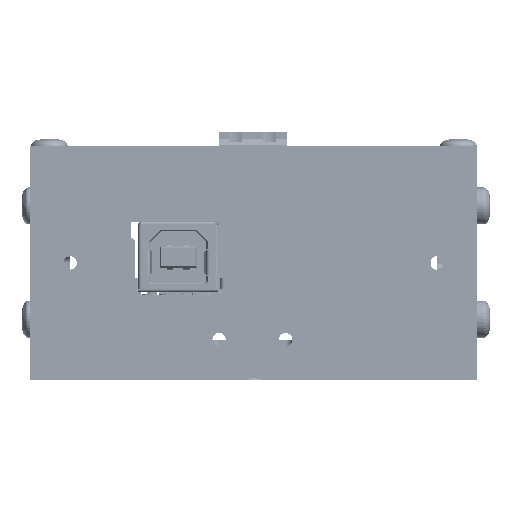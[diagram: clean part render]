
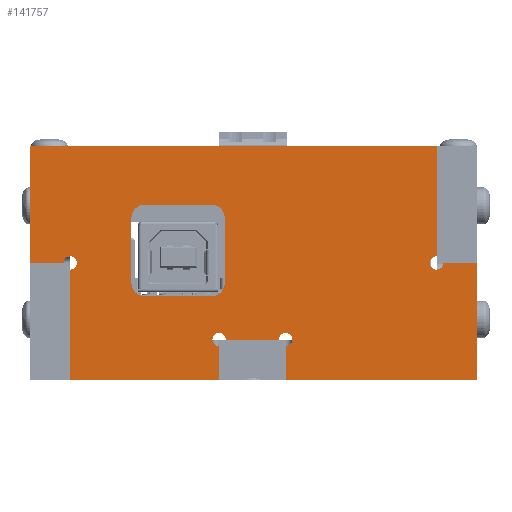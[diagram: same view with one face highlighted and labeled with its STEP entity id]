
A CAD part, front view. The second image highlights one B-rep face of the part: STEP entity #141757.
In plain terms, the highlighted planar face has unit normal (0, -1, 0).
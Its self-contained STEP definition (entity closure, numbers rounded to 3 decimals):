
#6376=FACE_BOUND('',#26732,.T.);
#11002=PLANE('',#152302);
#18528=FACE_OUTER_BOUND('',#26731,.T.);
#26731=EDGE_LOOP('',(#132771,#132772,#132773,#132774,#132775,#132776,#132777,
#132778,#132779,#132780,#132781,#132782,#132783,#132784,#132785,#132786));
#26732=EDGE_LOOP('',(#132787,#132788,#132789,#132790,#132791,#132792,#132793,
#132794));
#40728=LINE('',#330559,#54769);
#40733=LINE('',#330568,#54774);
#40735=LINE('',#330571,#54776);
#40738=LINE('',#330577,#54779);
#40739=LINE('',#330580,#54780);
#40744=LINE('',#330589,#54785);
#40745=LINE('',#330592,#54786);
#40752=LINE('',#330610,#54793);
#40756=LINE('',#330622,#54797);
#40757=LINE('',#330625,#54798);
#40763=LINE('',#330640,#54804);
#40766=LINE('',#330649,#54807);
#40768=LINE('',#330652,#54809);
#40771=LINE('',#330658,#54812);
#40772=LINE('',#330660,#54813);
#40775=LINE('',#330664,#54816);
#54769=VECTOR('',#186250,10.);
#54774=VECTOR('',#186257,10.);
#54776=VECTOR('',#186261,10.);
#54779=VECTOR('',#186266,10.);
#54780=VECTOR('',#186269,10.);
#54785=VECTOR('',#186276,10.);
#54786=VECTOR('',#186279,10.);
#54793=VECTOR('',#186294,10.);
#54797=VECTOR('',#186306,10.);
#54798=VECTOR('',#186309,10.);
#54804=VECTOR('',#186323,10.);
#54807=VECTOR('',#186334,10.);
#54809=VECTOR('',#186338,10.);
#54812=VECTOR('',#186343,10.);
#54813=VECTOR('',#186346,10.);
#54816=VECTOR('',#186351,10.);
#57878=CIRCLE('',#152263,1.);
#57880=CIRCLE('',#152266,1.);
#57882=CIRCLE('',#152269,1.);
#57884=CIRCLE('',#152272,1.);
#57887=CIRCLE('',#152283,2.);
#57889=CIRCLE('',#152287,2.);
#57891=CIRCLE('',#152292,2.);
#57893=CIRCLE('',#152296,2.);
#71380=VERTEX_POINT('',#330522);
#71381=VERTEX_POINT('',#330523);
#71384=VERTEX_POINT('',#330531);
#71385=VERTEX_POINT('',#330532);
#71388=VERTEX_POINT('',#330540);
#71389=VERTEX_POINT('',#330541);
#71392=VERTEX_POINT('',#330549);
#71393=VERTEX_POINT('',#330550);
#71396=VERTEX_POINT('',#330558);
#71399=VERTEX_POINT('',#330566);
#71401=VERTEX_POINT('',#330575);
#71402=VERTEX_POINT('',#330579);
#71405=VERTEX_POINT('',#330587);
#71406=VERTEX_POINT('',#330591);
#71410=VERTEX_POINT('',#330600);
#71411=VERTEX_POINT('',#330602);
#71413=VERTEX_POINT('',#330608);
#71415=VERTEX_POINT('',#330614);
#71417=VERTEX_POINT('',#330620);
#71418=VERTEX_POINT('',#330624);
#71421=VERTEX_POINT('',#330632);
#71423=VERTEX_POINT('',#330638);
#71425=VERTEX_POINT('',#330647);
#71427=VERTEX_POINT('',#330656);
#91825=EDGE_CURVE('',#71380,#71381,#57878,.T.);
#91829=EDGE_CURVE('',#71384,#71385,#57880,.T.);
#91833=EDGE_CURVE('',#71388,#71389,#57882,.T.);
#91837=EDGE_CURVE('',#71392,#71393,#57884,.T.);
#91841=EDGE_CURVE('',#71396,#71380,#40728,.T.);
#91846=EDGE_CURVE('',#71385,#71399,#40733,.T.);
#91848=EDGE_CURVE('',#71381,#71384,#40735,.F.);
#91851=EDGE_CURVE('',#71401,#71389,#40738,.T.);
#91852=EDGE_CURVE('',#71402,#71388,#40739,.T.);
#91857=EDGE_CURVE('',#71393,#71405,#40744,.T.);
#91858=EDGE_CURVE('',#71406,#71392,#40745,.F.);
#91863=EDGE_CURVE('',#71410,#71411,#57887,.T.);
#91867=EDGE_CURVE('',#71410,#71413,#40752,.T.);
#91870=EDGE_CURVE('',#71415,#71413,#57889,.T.);
#91873=EDGE_CURVE('',#71415,#71417,#40756,.T.);
#91874=EDGE_CURVE('',#71418,#71411,#40757,.T.);
#91879=EDGE_CURVE('',#71421,#71417,#57891,.T.);
#91882=EDGE_CURVE('',#71421,#71423,#40763,.T.);
#91884=EDGE_CURVE('',#71418,#71423,#57893,.T.);
#91887=EDGE_CURVE('',#71425,#71399,#40766,.T.);
#91889=EDGE_CURVE('',#71396,#71401,#40768,.T.);
#91892=EDGE_CURVE('',#71427,#71405,#40771,.T.);
#91893=EDGE_CURVE('',#71402,#71427,#40772,.T.);
#91896=EDGE_CURVE('',#71406,#71425,#40775,.T.);
#132771=ORIENTED_EDGE('',*,*,#91825,.T.);
#132772=ORIENTED_EDGE('',*,*,#91848,.T.);
#132773=ORIENTED_EDGE('',*,*,#91829,.T.);
#132774=ORIENTED_EDGE('',*,*,#91846,.T.);
#132775=ORIENTED_EDGE('',*,*,#91887,.F.);
#132776=ORIENTED_EDGE('',*,*,#91896,.F.);
#132777=ORIENTED_EDGE('',*,*,#91858,.T.);
#132778=ORIENTED_EDGE('',*,*,#91837,.T.);
#132779=ORIENTED_EDGE('',*,*,#91857,.T.);
#132780=ORIENTED_EDGE('',*,*,#91892,.F.);
#132781=ORIENTED_EDGE('',*,*,#91893,.F.);
#132782=ORIENTED_EDGE('',*,*,#91852,.T.);
#132783=ORIENTED_EDGE('',*,*,#91833,.T.);
#132784=ORIENTED_EDGE('',*,*,#91851,.F.);
#132785=ORIENTED_EDGE('',*,*,#91889,.F.);
#132786=ORIENTED_EDGE('',*,*,#91841,.T.);
#132787=ORIENTED_EDGE('',*,*,#91874,.T.);
#132788=ORIENTED_EDGE('',*,*,#91863,.F.);
#132789=ORIENTED_EDGE('',*,*,#91867,.T.);
#132790=ORIENTED_EDGE('',*,*,#91870,.F.);
#132791=ORIENTED_EDGE('',*,*,#91873,.T.);
#132792=ORIENTED_EDGE('',*,*,#91879,.F.);
#132793=ORIENTED_EDGE('',*,*,#91882,.T.);
#132794=ORIENTED_EDGE('',*,*,#91884,.F.);
#141757=ADVANCED_FACE('',(#18528,#6376),#11002,.T.);
#152263=AXIS2_PLACEMENT_3D('',#330524,#186218,#186219);
#152266=AXIS2_PLACEMENT_3D('',#330533,#186226,#186227);
#152269=AXIS2_PLACEMENT_3D('',#330542,#186234,#186235);
#152272=AXIS2_PLACEMENT_3D('',#330551,#186242,#186243);
#152283=AXIS2_PLACEMENT_3D('',#330603,#186287,#186288);
#152287=AXIS2_PLACEMENT_3D('',#330616,#186300,#186301);
#152292=AXIS2_PLACEMENT_3D('',#330634,#186317,#186318);
#152296=AXIS2_PLACEMENT_3D('',#330643,#186328,#186329);
#152302=AXIS2_PLACEMENT_3D('',#330665,#186352,#186353);
#186218=DIRECTION('center_axis',(0.,1.,0.));
#186219=DIRECTION('ref_axis',(1.,0.,0.));
#186226=DIRECTION('center_axis',(0.,1.,0.));
#186227=DIRECTION('ref_axis',(1.,0.,0.));
#186234=DIRECTION('center_axis',(0.,1.,0.));
#186235=DIRECTION('ref_axis',(1.,0.,0.));
#186242=DIRECTION('center_axis',(0.,1.,0.));
#186243=DIRECTION('ref_axis',(1.,0.,0.));
#186250=DIRECTION('',(0.,0.,1.));
#186257=DIRECTION('',(0.,0.,-1.));
#186261=DIRECTION('',(-1.,0.,0.));
#186266=DIRECTION('',(0.,0.,1.));
#186269=DIRECTION('',(1.,0.,0.));
#186276=DIRECTION('',(0.,0.,1.));
#186279=DIRECTION('',(1.,0.,0.));
#186287=DIRECTION('center_axis',(0.,-1.,0.));
#186288=DIRECTION('ref_axis',(0.707,0.,-0.707));
#186294=DIRECTION('',(-1.,0.,0.));
#186300=DIRECTION('center_axis',(0.,-1.,0.));
#186301=DIRECTION('ref_axis',(-0.707,0.,-0.707));
#186306=DIRECTION('',(0.,0.,1.));
#186309=DIRECTION('',(0.,0.,-1.));
#186317=DIRECTION('center_axis',(0.,-1.,0.));
#186318=DIRECTION('ref_axis',(-0.707,0.,0.707));
#186323=DIRECTION('',(1.,0.,0.));
#186328=DIRECTION('center_axis',(0.,-1.,0.));
#186329=DIRECTION('ref_axis',(0.707,0.,0.707));
#186334=DIRECTION('',(-1.,0.,0.));
#186338=DIRECTION('',(-1.,0.,0.));
#186343=DIRECTION('',(1.,0.,0.));
#186346=DIRECTION('',(0.,0.,1.));
#186351=DIRECTION('',(0.,0.,-1.));
#186352=DIRECTION('center_axis',(0.,-1.,0.));
#186353=DIRECTION('ref_axis',(1.,0.,0.));
#330522=CARTESIAN_POINT('',(25.107,-4.05,-2.2));
#330523=CARTESIAN_POINT('',(26.107,-4.05,-1.2));
#330524=CARTESIAN_POINT('Origin',(25.107,-4.05,-1.2));
#330531=CARTESIAN_POINT('',(34.107,-4.05,-1.2));
#330532=CARTESIAN_POINT('',(35.107,-4.05,-2.2));
#330533=CARTESIAN_POINT('Origin',(35.107,-4.05,-1.2));
#330540=CARTESIAN_POINT('',(1.756,-4.05,10.3));
#330541=CARTESIAN_POINT('',(2.756,-4.05,9.3));
#330542=CARTESIAN_POINT('Origin',(2.756,-4.05,10.3));
#330549=CARTESIAN_POINT('',(58.756,-4.05,10.3));
#330550=CARTESIAN_POINT('',(57.756,-4.05,11.3));
#330551=CARTESIAN_POINT('Origin',(57.756,-4.05,10.3));
#330558=CARTESIAN_POINT('',(25.107,-4.05,-7.2));
#330559=CARTESIAN_POINT('',(25.107,-4.05,-6.2));
#330566=CARTESIAN_POINT('',(35.107,-4.05,-7.2));
#330568=CARTESIAN_POINT('',(35.107,-4.05,4.8));
#330571=CARTESIAN_POINT('',(30.607,-4.05,-1.2));
#330575=CARTESIAN_POINT('',(2.756,-4.05,-7.2));
#330577=CARTESIAN_POINT('',(2.756,-4.05,19.8));
#330579=CARTESIAN_POINT('',(-3.244,-4.05,10.3));
#330580=CARTESIAN_POINT('',(13.506,-4.05,10.3));
#330587=CARTESIAN_POINT('',(57.756,-4.05,27.8));
#330589=CARTESIAN_POINT('',(57.756,-4.05,10.8));
#330591=CARTESIAN_POINT('',(63.756,-4.05,10.3));
#330592=CARTESIAN_POINT('',(46.432,-4.05,10.3));
#330600=CARTESIAN_POINT('',(23.95,-4.05,5.3));
#330602=CARTESIAN_POINT('',(25.95,-4.05,7.3));
#330603=CARTESIAN_POINT('Origin',(23.95,-4.05,7.3));
#330608=CARTESIAN_POINT('',(13.95,-4.05,5.3));
#330610=CARTESIAN_POINT('',(23.95,-4.05,5.3));
#330614=CARTESIAN_POINT('',(11.95,-4.05,7.3));
#330616=CARTESIAN_POINT('Origin',(13.95,-4.05,7.3));
#330620=CARTESIAN_POINT('',(11.95,-4.05,17.05));
#330622=CARTESIAN_POINT('',(11.95,-4.05,7.8));
#330624=CARTESIAN_POINT('',(25.95,-4.05,17.05));
#330625=CARTESIAN_POINT('',(25.95,-4.05,17.55));
#330632=CARTESIAN_POINT('',(13.95,-4.05,19.05));
#330634=CARTESIAN_POINT('Origin',(13.95,-4.05,17.05));
#330638=CARTESIAN_POINT('',(23.95,-4.05,19.05));
#330640=CARTESIAN_POINT('',(13.95,-4.05,19.05));
#330643=CARTESIAN_POINT('Origin',(23.95,-4.05,17.05));
#330647=CARTESIAN_POINT('',(63.756,-4.05,-7.2));
#330649=CARTESIAN_POINT('',(57.756,-4.05,-7.2));
#330652=CARTESIAN_POINT('',(57.756,-4.05,-7.2));
#330656=CARTESIAN_POINT('',(-3.244,-4.05,27.8));
#330658=CARTESIAN_POINT('',(-3.244,-4.05,27.8));
#330660=CARTESIAN_POINT('',(-3.244,-4.05,25.8));
#330664=CARTESIAN_POINT('',(63.756,-4.05,-6.2));
#330665=CARTESIAN_POINT('Origin',(35.107,-4.05,-0.2));
